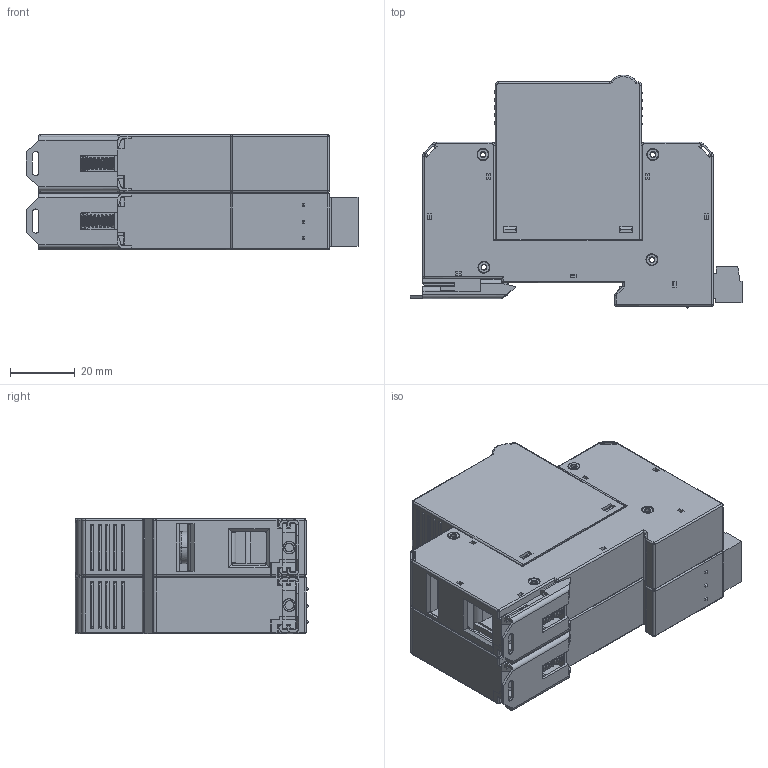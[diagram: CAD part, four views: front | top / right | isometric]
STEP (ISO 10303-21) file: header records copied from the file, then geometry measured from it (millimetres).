
FILE_DESCRIPTION((''),'2;1');
FILE_NAME('2-RC','2015-04-23T',('bojan.rotar'),('Audax d.o.o.'),'PRO/ENGINEER BY PARAMETRIC TECHNOLOGY CORPORATION, 2013150','PRO/ENGINEER BY PARAMETRIC TECHNOLOGY CORPORATION, 2013150','');
FILE_SCHEMA(('CONFIG_CONTROL_DESIGN','GEOMETRIC_VALIDATION_PROPERTIES_MIM'));
Products named in the file (1): 2-RC
Bounding box: 102.8 x 72.34 x 35.8 mm (x, y, z)
Volume: 59636.3 mm3; surface area: 139529.2 mm2
Topology: 7 solids, 19 shells, 5293 faces, 14527 edges, 9376 vertices
Faces by surface type: plane 3837, cylinder 1109, bspline 123, torus 122, sphere 62, cone 40
Entity records: 223348 total; most frequent: CARTESIAN_POINT 48818, ORIENTED_EDGE 29018, DIRECTION 26767, EDGE_CURVE 14527, VECTOR 11575, LINE 11575, VERTEX_POINT 9376, PRESENTATION_STYLE_ASSIGNMENT 7637
